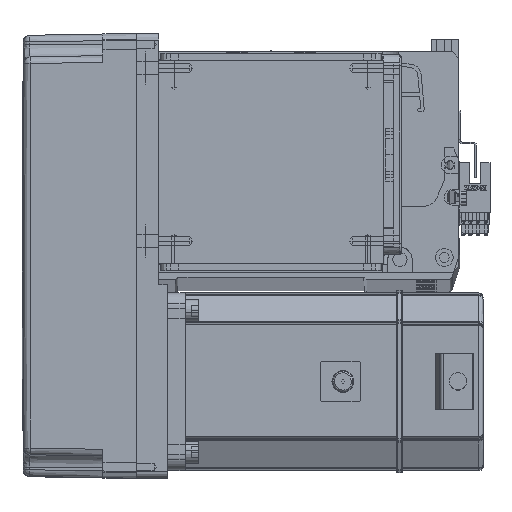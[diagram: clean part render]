
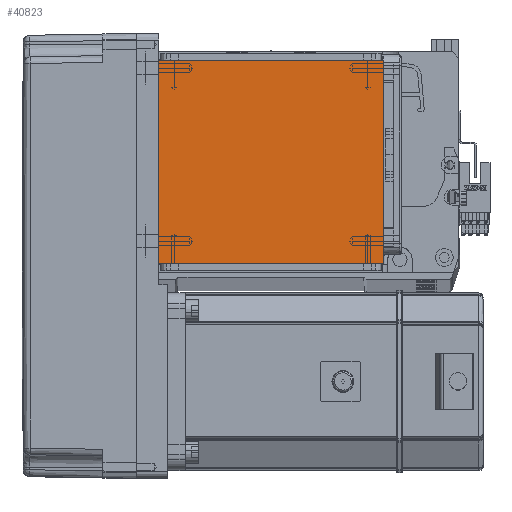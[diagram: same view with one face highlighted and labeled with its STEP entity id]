
A CAD part, top view. The second image highlights one B-rep face of the part: STEP entity #40823.
In plain terms, the highlighted planar face has unit normal (0, 0, 1).
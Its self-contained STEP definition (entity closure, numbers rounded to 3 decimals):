
#51 = AXIS2_PLACEMENT_3D ( 'NONE', #67420, #41917, #36410 ) ;
#3034 = EDGE_CURVE ( 'NONE', #33857, #45551, #18271, .T. ) ;
#3802 = CARTESIAN_POINT ( 'NONE',  ( 50.5, 20., 115. ) ) ;
#4379 = DIRECTION ( 'NONE',  ( -1., 0., 0. ) ) ;
#6330 = CARTESIAN_POINT ( 'NONE',  ( 50.5, 122., 115. ) ) ;
#13691 = VERTEX_POINT ( 'NONE', #63188 ) ;
#17950 = EDGE_LOOP ( 'NONE', ( #25940, #39940, #59088, #54013 ) ) ;
#18271 = LINE ( 'NONE', #6330, #62377 ) ;
#18426 = DIRECTION ( 'NONE',  ( 0., -1., 0. ) ) ;
#23652 = VECTOR ( 'NONE', #18426, 1000. ) ;
#25940 = ORIENTED_EDGE ( 'NONE', *, *, #30117, .F. ) ;
#27169 = DIRECTION ( 'NONE',  ( 0., 1., 0. ) ) ;
#30117 = EDGE_CURVE ( 'NONE', #13691, #45551, #32040, .T. ) ;
#32040 = LINE ( 'NONE', #54671, #45938 ) ;
#33857 = VERTEX_POINT ( 'NONE', #3802 ) ;
#36410 = DIRECTION ( 'NONE',  ( 1., 0., 0. ) ) ;
#39940 = ORIENTED_EDGE ( 'NONE', *, *, #65820, .T. ) ;
#40823 = ADVANCED_FACE ( 'NONE', ( #48420 ), #52353, .T. ) ;
#41047 = VERTEX_POINT ( 'NONE', #43932 ) ;
#41917 = DIRECTION ( 'NONE',  ( 0., 0., 1. ) ) ;
#43932 = CARTESIAN_POINT ( 'NONE',  ( -50.5, 20., 115. ) ) ;
#44487 = DIRECTION ( 'NONE',  ( 1., 0., 0. ) ) ;
#45551 = VERTEX_POINT ( 'NONE', #65245 ) ;
#45938 = VECTOR ( 'NONE', #44487, 1000. ) ;
#48420 = FACE_OUTER_BOUND ( 'NONE', #17950, .T. ) ;
#49454 = CARTESIAN_POINT ( 'NONE',  ( -50.5, 122., 115. ) ) ;
#49575 = EDGE_CURVE ( 'NONE', #33857, #41047, #57668, .T. ) ;
#51395 = LINE ( 'NONE', #49454, #23652 ) ;
#52353 = PLANE ( 'NONE',  #51 ) ;
#54013 = ORIENTED_EDGE ( 'NONE', *, *, #3034, .T. ) ;
#54671 = CARTESIAN_POINT ( 'NONE',  ( -70.004, 111.5, 115. ) ) ;
#57668 = LINE ( 'NONE', #61264, #59340 ) ;
#59088 = ORIENTED_EDGE ( 'NONE', *, *, #49575, .F. ) ;
#59340 = VECTOR ( 'NONE', #4379, 1000. ) ;
#61264 = CARTESIAN_POINT ( 'NONE',  ( -70.004, 20., 115. ) ) ;
#62377 = VECTOR ( 'NONE', #27169, 1000. ) ;
#63188 = CARTESIAN_POINT ( 'NONE',  ( -50.5, 111.5, 115. ) ) ;
#65245 = CARTESIAN_POINT ( 'NONE',  ( 50.5, 111.5, 115. ) ) ;
#65820 = EDGE_CURVE ( 'NONE', #13691, #41047, #51395, .T. ) ;
#67420 = CARTESIAN_POINT ( 'NONE',  ( 0., 0., 115. ) ) ;
